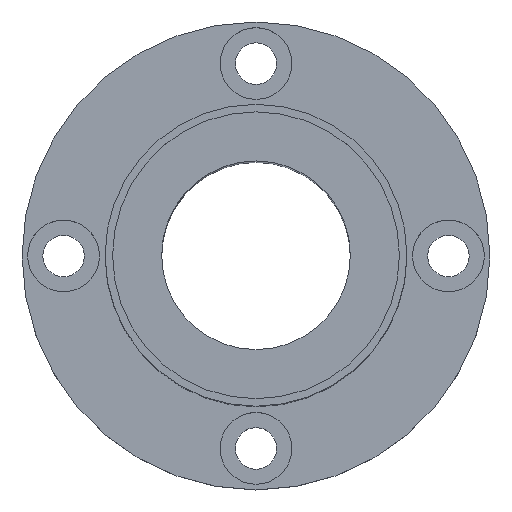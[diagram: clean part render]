
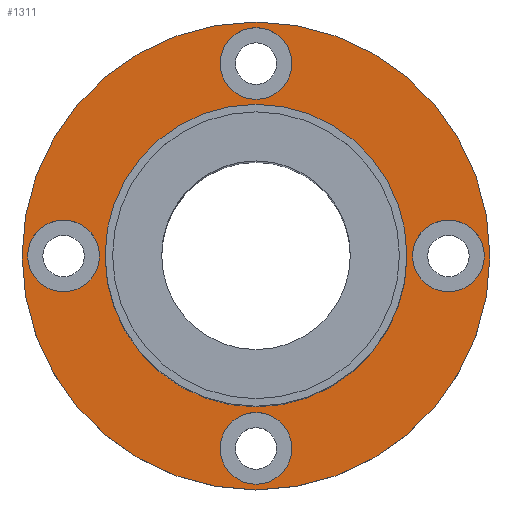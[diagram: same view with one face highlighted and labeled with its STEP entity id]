
A CAD part, top view. The second image highlights one B-rep face of the part: STEP entity #1311.
In plain terms, the highlighted planar face has unit normal (0, 0, 1).
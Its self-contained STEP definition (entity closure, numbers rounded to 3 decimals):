
#217=CARTESIAN_POINT('',(-14.86,-1.402,60.0));
#218=VERTEX_POINT('',#217);
#227=CARTESIAN_POINT('',(25.14,-1.402,60.0));
#228=VERTEX_POINT('',#227);
#229=CARTESIAN_POINT('',(5.14,-1.402,60.0));
#230=DIRECTION('',(0.0,0.0,1.0));
#231=DIRECTION('',(-1.0,0.0,0.0));
#232=AXIS2_PLACEMENT_3D('',#229,#230,#231);
#233=CIRCLE('',#232,20.0);
#234=EDGE_CURVE('',#218,#228,#233,.T.);
#261=CARTESIAN_POINT('',(36.14,-1.402,60.0));
#262=VERTEX_POINT('',#261);
#278=CARTESIAN_POINT('',(-25.86,-1.402,60.0));
#279=VERTEX_POINT('',#278);
#286=CARTESIAN_POINT('',(5.14,-1.402,60.0));
#287=DIRECTION('',(0.0,0.0,-1.0));
#288=DIRECTION('',(1.0,0.0,0.0));
#289=AXIS2_PLACEMENT_3D('',#286,#287,#288);
#290=CIRCLE('',#289,31.0);
#291=EDGE_CURVE('',#279,#262,#290,.T.);
#387=CARTESIAN_POINT('',(-15.61,-1.402,60.0));
#388=VERTEX_POINT('',#387);
#404=CARTESIAN_POINT('',(-25.11,-1.402,60.0));
#405=VERTEX_POINT('',#404);
#412=CARTESIAN_POINT('',(-20.36,-1.402,60.0));
#413=DIRECTION('',(0.0,0.0,-1.0));
#414=DIRECTION('',(1.0,0.0,0.0));
#415=AXIS2_PLACEMENT_3D('',#412,#413,#414);
#416=CIRCLE('',#415,4.75);
#417=EDGE_CURVE('',#388,#405,#416,.T.);
#513=CARTESIAN_POINT('',(35.39,-1.402,60.0));
#514=VERTEX_POINT('',#513);
#530=CARTESIAN_POINT('',(25.89,-1.402,60.0));
#531=VERTEX_POINT('',#530);
#538=CARTESIAN_POINT('',(30.64,-1.402,60.0));
#539=DIRECTION('',(0.0,0.0,-1.0));
#540=DIRECTION('',(1.0,0.0,0.0));
#541=AXIS2_PLACEMENT_3D('',#538,#539,#540);
#542=CIRCLE('',#541,4.75);
#543=EDGE_CURVE('',#514,#531,#542,.T.);
#639=CARTESIAN_POINT('',(9.89,-26.902,60.0));
#640=VERTEX_POINT('',#639);
#656=CARTESIAN_POINT('',(0.39,-26.902,60.0));
#657=VERTEX_POINT('',#656);
#664=CARTESIAN_POINT('',(5.14,-26.902,60.0));
#665=DIRECTION('',(0.0,0.0,-1.0));
#666=DIRECTION('',(1.0,0.0,0.0));
#667=AXIS2_PLACEMENT_3D('',#664,#665,#666);
#668=CIRCLE('',#667,4.75);
#669=EDGE_CURVE('',#640,#657,#668,.T.);
#765=CARTESIAN_POINT('',(9.89,24.098,60.0));
#766=VERTEX_POINT('',#765);
#782=CARTESIAN_POINT('',(0.39,24.098,60.0));
#783=VERTEX_POINT('',#782);
#790=CARTESIAN_POINT('',(5.14,24.098,60.0));
#791=DIRECTION('',(0.0,0.0,-1.0));
#792=DIRECTION('',(1.0,0.0,0.0));
#793=AXIS2_PLACEMENT_3D('',#790,#791,#792);
#794=CIRCLE('',#793,4.75);
#795=EDGE_CURVE('',#766,#783,#794,.T.);
#853=CARTESIAN_POINT('',(5.14,24.098,60.0));
#854=DIRECTION('',(0.0,0.0,-1.0));
#855=DIRECTION('',(1.0,0.0,0.0));
#856=AXIS2_PLACEMENT_3D('',#853,#854,#855);
#857=CIRCLE('',#856,4.75);
#858=EDGE_CURVE('',#783,#766,#857,.T.);
#957=CARTESIAN_POINT('',(5.14,-26.902,60.0));
#958=DIRECTION('',(0.0,0.0,-1.0));
#959=DIRECTION('',(1.0,0.0,0.0));
#960=AXIS2_PLACEMENT_3D('',#957,#958,#959);
#961=CIRCLE('',#960,4.75);
#962=EDGE_CURVE('',#657,#640,#961,.T.);
#1061=CARTESIAN_POINT('',(30.64,-1.402,60.0));
#1062=DIRECTION('',(0.0,0.0,-1.0));
#1063=DIRECTION('',(1.0,0.0,0.0));
#1064=AXIS2_PLACEMENT_3D('',#1061,#1062,#1063);
#1065=CIRCLE('',#1064,4.75);
#1066=EDGE_CURVE('',#531,#514,#1065,.T.);
#1165=CARTESIAN_POINT('',(-20.36,-1.402,60.0));
#1166=DIRECTION('',(0.0,0.0,-1.0));
#1167=DIRECTION('',(1.0,0.0,0.0));
#1168=AXIS2_PLACEMENT_3D('',#1165,#1166,#1167);
#1169=CIRCLE('',#1168,4.75);
#1170=EDGE_CURVE('',#405,#388,#1169,.T.);
#1222=CARTESIAN_POINT('',(5.14,-1.402,60.0));
#1223=DIRECTION('',(0.0,0.0,-1.0));
#1224=DIRECTION('',(1.0,0.0,0.0));
#1225=AXIS2_PLACEMENT_3D('',#1222,#1223,#1224);
#1226=CIRCLE('',#1225,31.0);
#1227=EDGE_CURVE('',#262,#279,#1226,.T.);
#1276=CARTESIAN_POINT('',(5.14,-1.402,60.0));
#1277=DIRECTION('',(0.0,0.0,1.0));
#1278=DIRECTION('',(1.0,0.0,0.0));
#1279=AXIS2_PLACEMENT_3D('',#1276,#1277,#1278);
#1280=PLANE('',#1279);
#1281=ORIENTED_EDGE('',*,*,#291,.F.);
#1282=ORIENTED_EDGE('',*,*,#1227,.F.);
#1283=EDGE_LOOP('',(#1281,#1282));
#1284=FACE_OUTER_BOUND('',#1283,.T.);
#1285=ORIENTED_EDGE('',*,*,#795,.T.);
#1286=ORIENTED_EDGE('',*,*,#858,.T.);
#1287=EDGE_LOOP('',(#1285,#1286));
#1288=FACE_BOUND('',#1287,.T.);
#1289=ORIENTED_EDGE('',*,*,#669,.T.);
#1290=ORIENTED_EDGE('',*,*,#962,.T.);
#1291=EDGE_LOOP('',(#1289,#1290));
#1292=FACE_BOUND('',#1291,.T.);
#1293=ORIENTED_EDGE('',*,*,#543,.T.);
#1294=ORIENTED_EDGE('',*,*,#1066,.T.);
#1295=EDGE_LOOP('',(#1293,#1294));
#1296=FACE_BOUND('',#1295,.T.);
#1297=ORIENTED_EDGE('',*,*,#417,.T.);
#1298=ORIENTED_EDGE('',*,*,#1170,.T.);
#1299=EDGE_LOOP('',(#1297,#1298));
#1300=FACE_BOUND('',#1299,.T.);
#1301=ORIENTED_EDGE('',*,*,#234,.F.);
#1302=CARTESIAN_POINT('',(5.14,-1.402,60.0));
#1303=DIRECTION('',(0.0,0.0,1.0));
#1304=DIRECTION('',(-1.0,0.0,0.0));
#1305=AXIS2_PLACEMENT_3D('',#1302,#1303,#1304);
#1306=CIRCLE('',#1305,20.0);
#1307=EDGE_CURVE('',#228,#218,#1306,.T.);
#1308=ORIENTED_EDGE('',*,*,#1307,.F.);
#1309=EDGE_LOOP('',(#1301,#1308));
#1310=FACE_BOUND('',#1309,.T.);
#1311=ADVANCED_FACE('',(#1284,#1288,#1292,#1296,#1300,#1310),#1280,.T.);
